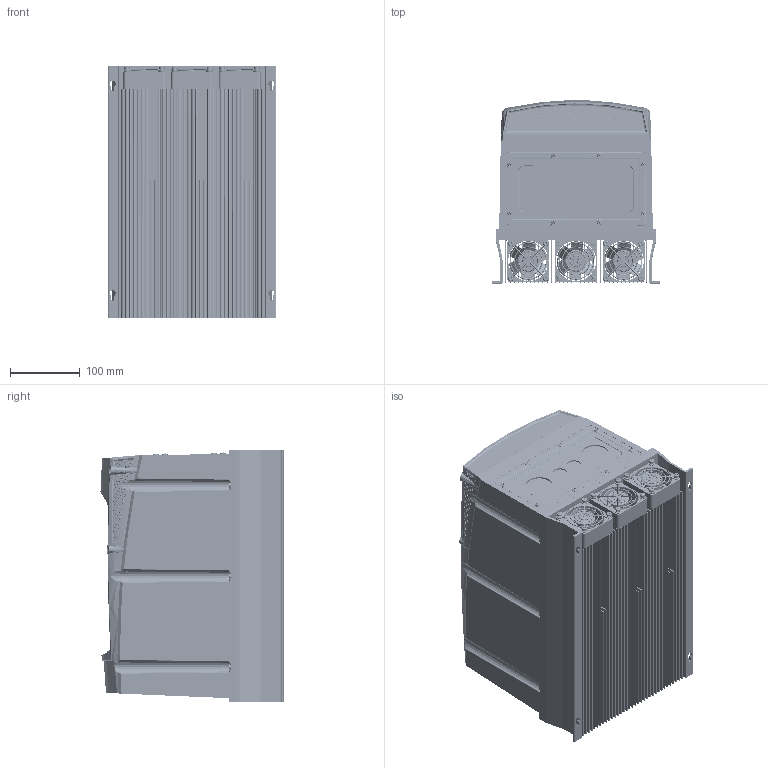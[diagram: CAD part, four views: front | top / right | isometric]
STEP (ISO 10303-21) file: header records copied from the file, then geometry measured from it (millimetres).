
FILE_DESCRIPTION (( 'STEP AP203' ), '1' );
FILE_NAME ('P2.IP66.Gen2.SIZE4.OLED.NonSwitched-Closed (ENVELOPE) (4-Hole).STEP', '2022-08-04T10:15:44', ( '' ), ( '' ), 'SwSTEP 2.0', 'SolidWorks 2022', '' );
FILE_SCHEMA (( 'CONFIG_CONTROL_DESIGN' ));
Products named in the file (1): P2.IP66.Gen2.SIZE4.OLED.NonSwitched-Closed (ENVELOPE) (4-Hole)
Bounding box: 240 x 262.09 x 360.09 mm (x, y, z)
Volume: 15170003.5 mm3; surface area: 1901586 mm2
Topology: 1 solids, 41 shells, 7008 faces, 20706 edges, 13623 vertices
Faces by surface type: cylinder 2391, sphere 1972, plane 1518, bspline 695, cone 293, torus 139
Entity records: 270073 total; most frequent: CARTESIAN_POINT 115963, ORIENTED_EDGE 33748, DIRECTION 30814, EDGE_CURVE 16874, AXIS2_PLACEMENT_3D 12685, VERTEX_POINT 11131, EDGE_LOOP 7483, CIRCLE 6899
